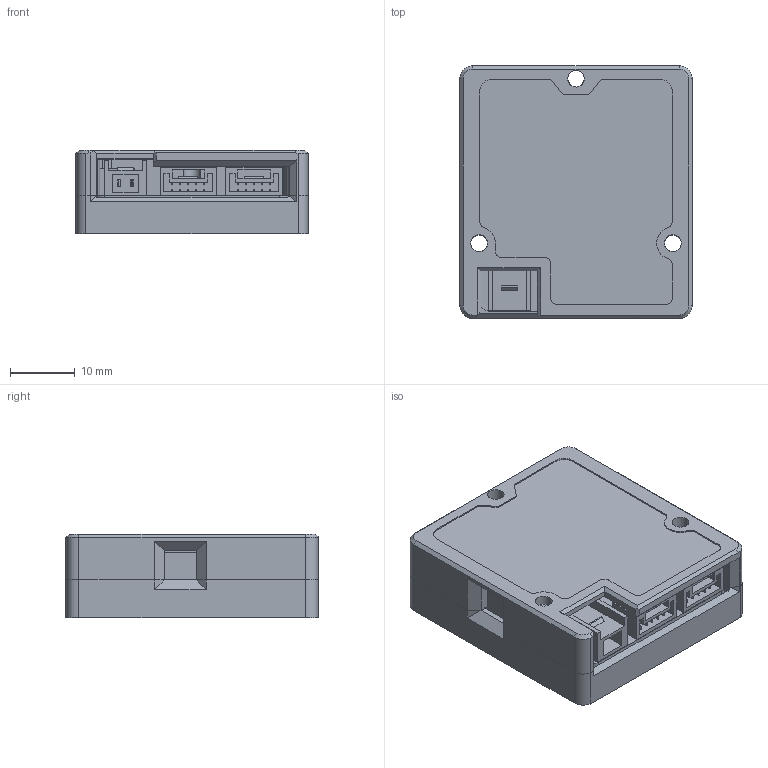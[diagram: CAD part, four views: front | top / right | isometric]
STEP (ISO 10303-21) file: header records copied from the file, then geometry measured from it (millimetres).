
FILE_DESCRIPTION (( 'STEP AP203' ), '1' );
FILE_NAME ('HI15-3D.STEP', '2025-08-07T07:50:16', ( '' ), ( '' ), 'SwSTEP 2.0', 'SolidWorks 2016', '' );
FILE_SCHEMA (( 'CONFIG_CONTROL_DESIGN' ));
Length unit declared in the file: millimetre
Products named in the file (1): HI15-3D
Bounding box: 36 x 39.1 x 13 mm (x, y, z)
Volume: 9859.9 mm3; surface area: 12288.3 mm2
Topology: 3 solids, 3 shells, 468 faces, 1290 edges, 826 vertices
Faces by surface type: plane 327, cylinder 114, cone 27
Entity records: 14772 total; most frequent: CARTESIAN_POINT 2589, ORIENTED_EDGE 2552, DIRECTION 2475, EDGE_CURVE 1276, LINE 1003, VECTOR 1003, VERTEX_POINT 826, AXIS2_PLACEMENT_3D 736
